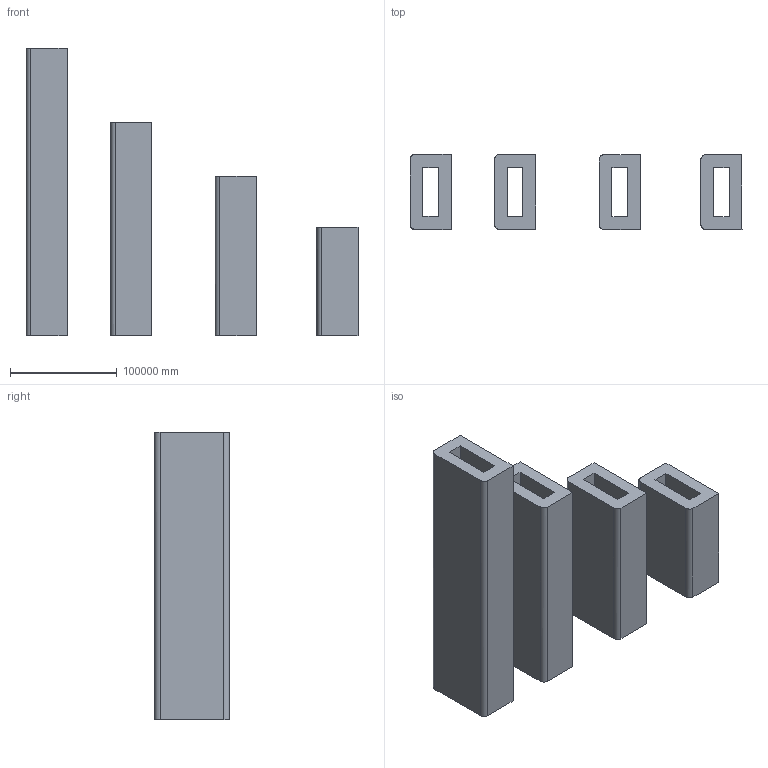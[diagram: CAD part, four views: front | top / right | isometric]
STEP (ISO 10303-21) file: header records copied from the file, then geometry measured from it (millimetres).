
FILE_DESCRIPTION(/* description */ (''),/* implementation_level */ '2;1');
FILE_NAME(/* name */ 'CORNERS_END_FERRES',/* time_stamp */ '2023-09-19T16:04:17+02:00',/* author */ (''),/* organization */ (''),/* preprocessor_version */ 'ST-DEVELOPER v16.5',/* originating_system */ 'Rhino 7.15',/* authorisation */ '');
FILE_SCHEMA (('AUTOMOTIVE_DESIGN'));
Length unit declared in the file: metre
Products named in the file (1): Document
Bounding box: 311281.13 x 70000 x 270000 mm (x, y, z)
Volume: 1458719051023280.8 mm3; surface area: 257521098908.3 mm2
Topology: 4 solids, 4 shells, 48 faces, 120 edges, 80 vertices
Faces by surface type: bspline 48
Entity records: 2717 total; most frequent: CARTESIAN_POINT 1186, ORIENTED_EDGE 240, PCURVE 240, DEFINITIONAL_REPRESENTATION 240, B_SPLINE_CURVE_WITH_KNOTS 240, SURFACE_CURVE 120, EDGE_CURVE 120, VERTEX_POINT 80
